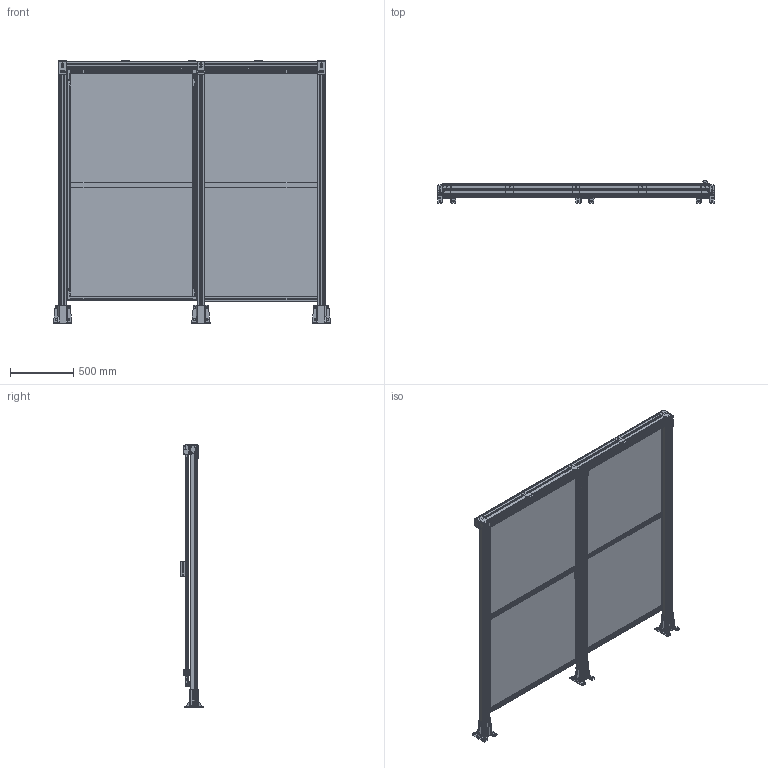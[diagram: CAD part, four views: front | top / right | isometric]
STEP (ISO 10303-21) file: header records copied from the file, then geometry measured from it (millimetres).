
FILE_DESCRIPTION(/* description */ (''),/* implementation_level */ '2;1');
FILE_NAME(/* name */ 'Z:\Marketing\fastline\Porta scorrevole singola H=2000.stp',/* time_stamp */ '2021-10-15T15:23:43+02:00',/* author */ ('mpistoia'),/* organization */ (''),/* preprocessor_version */ 'ST-DEVELOPER v17.2',/* originating_system */ 'Autodesk Inventor 2019',/* authorisation */ '');
FILE_SCHEMA (('AUTOMOTIVE_DESIGN { 1 0 10303 214 3 1 1 }'));
Products named in the file (1): Porta scorrevole singola H=2000
Bounding box: 2185.13 x 179.48 x 2068 mm (x, y, z)
Volume: 21234914.7 mm3; surface area: 17060963.7 mm2
Topology: 8 solids, 26 shells, 6397 faces, 16920 edges, 10827 vertices
Faces by surface type: plane 3805, cylinder 1958, cone 213, sphere 192, bspline 178, torus 51
Full cylindrical faces by diameter (mm): 3.2 x4, 3.25 x4, 4 x20, 4.5 x15, 5 x8, 5.5 x16, 6 x16, 6.1 x4, 6.2 x4, 6.35 x8, 6.5 x12, 6.647 x12, 7 x6, 7.5 x20, 7.9 x16, 8 x25, 8.5 x6, 9 x6, 9.5 x10, 10 x4, 11 x8, 11.63 x14, 13 x16, 13.2 x24, 24.5 x8, 27 x8
Entity records: 390661 total; most frequent: CARTESIAN_POINT 229440, ORIENTED_EDGE 33778, DIRECTION 33742, EDGE_CURVE 16889, AXIS2_PLACEMENT_3D 11367, LINE 11008, VECTOR 11008, VERTEX_POINT 10823
